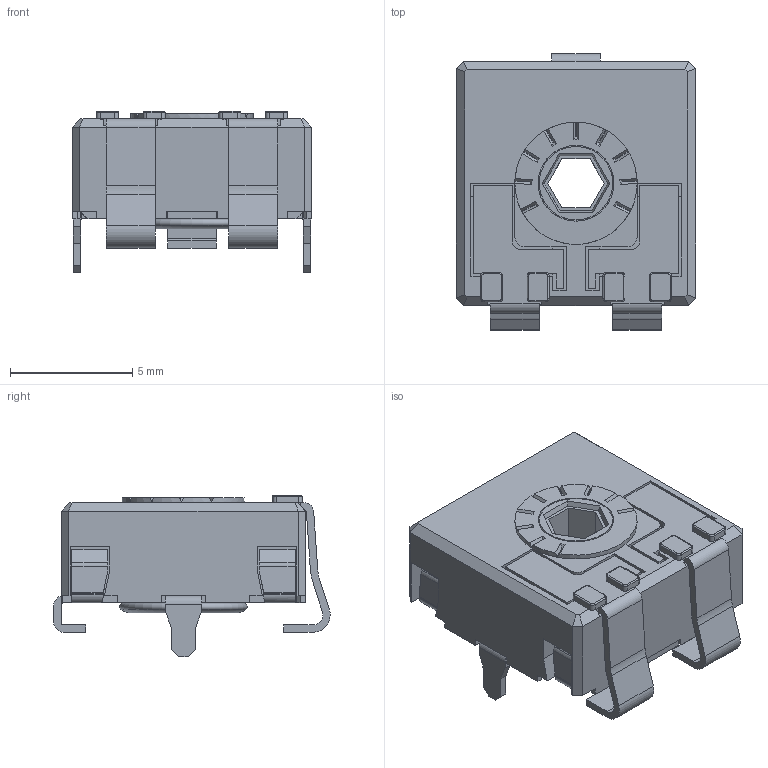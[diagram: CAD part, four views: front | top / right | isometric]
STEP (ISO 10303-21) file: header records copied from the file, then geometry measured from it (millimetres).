
FILE_DESCRIPTION(/* description */ (''),/* implementation_level */ '2;1');
FILE_NAME(/* name */ '\\SERVERACP\intercambio\Ignacio Santa Cecilia\Nueva WEB 2025\CA9 - CE9\CA9MVSMD CY.stp',/* time_stamp */ '2025-06-03T15:45:14+02:00',/* author */ ('CEM'),/* organization */ (''),/* preprocessor_version */ 'ST-DEVELOPER v17',/* originating_system */ 'Autodesk Inventor 2018',/* authorisation */ '');
FILE_SCHEMA (('AUTOMOTIVE_DESIGN { 1 0 10303 214 3 1 1 }'));
Length unit declared in the file: millimetre
Products named in the file (1): CA9MVSMD CY
Bounding box: 9.8 x 11.3 x 6.6 mm (x, y, z)
Volume: 245.7 mm3; surface area: 851 mm2
Topology: 2 solids, 2 shells, 549 faces, 1573 edges, 1003 vertices
Faces by surface type: plane 426, cylinder 82, torus 19, cone 16, bspline 6
Full cylindrical faces by diameter (mm): 3 x1, 3.1 x1, 4 x1, 4.8 x1, 5 x1
Entity records: 18097 total; most frequent: CARTESIAN_POINT 3334, ORIENTED_EDGE 3146, DIRECTION 2901, EDGE_CURVE 1573, LINE 1257, VECTOR 1257, VERTEX_POINT 1003, AXIS2_PLACEMENT_3D 822
